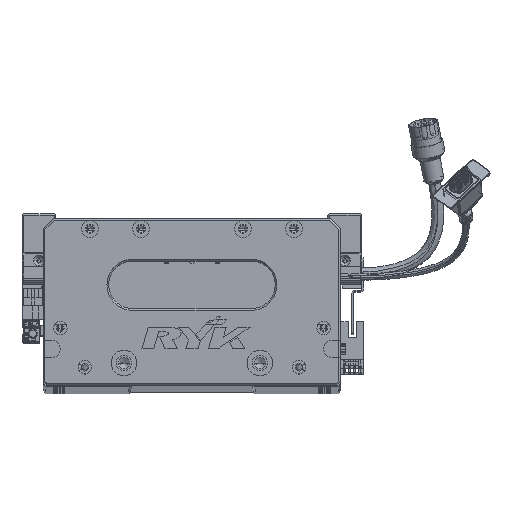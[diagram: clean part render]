
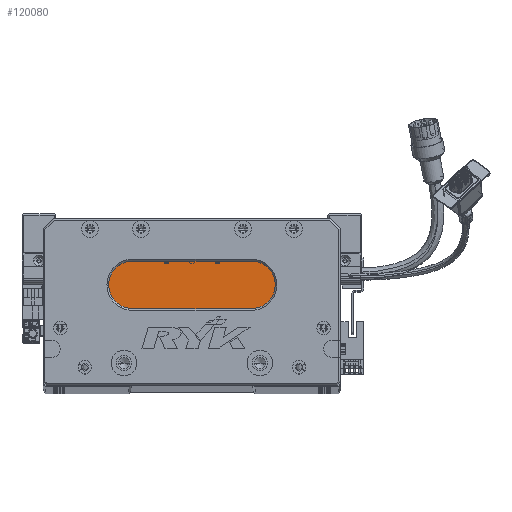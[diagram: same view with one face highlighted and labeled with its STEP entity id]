
A CAD part, top view. The second image highlights one B-rep face of the part: STEP entity #120080.
In plain terms, the highlighted planar face has unit normal (0, 0, 1) as drawn and (0, 0, -1) by its records, which use the part's own axes.
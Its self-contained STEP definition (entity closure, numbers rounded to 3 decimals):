
#118 = DIRECTION ( 'NONE',  ( -1., 0., 0. ) ) ;
#4288 = DIRECTION ( 'NONE',  ( 1., 0., 0. ) ) ;
#5351 = ORIENTED_EDGE ( 'NONE', *, *, #66444, .T. ) ;
#8764 = CARTESIAN_POINT ( 'NONE',  ( 122.5, 73., 18. ) ) ;
#9610 = CIRCLE ( 'NONE', #89347, 14. ) ;
#14701 = EDGE_CURVE ( 'NONE', #100714, #54837, #9610, .T. ) ;
#18153 = DIRECTION ( 'NONE',  ( -1., 0., 0. ) ) ;
#18164 = CIRCLE ( 'NONE', #48050, 14. ) ;
#20559 = VECTOR ( 'NONE', #4288, 1000. ) ;
#23503 = CIRCLE ( 'NONE', #38108, 14. ) ;
#26553 = EDGE_LOOP ( 'NONE', ( #94651, #113593, #57773, #119593, #5351 ) ) ;
#28955 = VERTEX_POINT ( 'NONE', #74074 ) ;
#32872 = FACE_OUTER_BOUND ( 'NONE', #26553, .T. ) ;
#33440 = CARTESIAN_POINT ( 'NONE',  ( 52.5, 45., 18. ) ) ;
#37863 = CARTESIAN_POINT ( 'NONE',  ( 122.5, 59., 18. ) ) ;
#38108 = AXIS2_PLACEMENT_3D ( 'NONE', #58909, #41192, #115889 ) ;
#40216 = DIRECTION ( 'NONE',  ( -1., 0., 0. ) ) ;
#41192 = DIRECTION ( 'NONE',  ( 0., 0., -1. ) ) ;
#45551 = LINE ( 'NONE', #108904, #20559 ) ;
#48050 = AXIS2_PLACEMENT_3D ( 'NONE', #92425, #65818, #18153 ) ;
#51114 = EDGE_CURVE ( 'NONE', #54837, #93905, #117104, .T. ) ;
#54837 = VERTEX_POINT ( 'NONE', #95282 ) ;
#57773 = ORIENTED_EDGE ( 'NONE', *, *, #120077, .T. ) ;
#58909 = CARTESIAN_POINT ( 'NONE',  ( 52.5, 59., 18. ) ) ;
#61101 = CARTESIAN_POINT ( 'NONE',  ( 52.5, 73., 18. ) ) ;
#65818 = DIRECTION ( 'NONE',  ( 0., 0., -1. ) ) ;
#66354 = EDGE_CURVE ( 'NONE', #28955, #90166, #23503, .T. ) ;
#66444 = EDGE_CURVE ( 'NONE', #90166, #100714, #45551, .T. ) ;
#74074 = CARTESIAN_POINT ( 'NONE',  ( 38.5, 59., 18. ) ) ;
#77172 = AXIS2_PLACEMENT_3D ( 'NONE', #37863, #102691, #118 ) ;
#80363 = VECTOR ( 'NONE', #118130, 1000. ) ;
#89347 = AXIS2_PLACEMENT_3D ( 'NONE', #96370, #98871, #40216 ) ;
#90166 = VERTEX_POINT ( 'NONE', #61101 ) ;
#92425 = CARTESIAN_POINT ( 'NONE',  ( 52.5, 59., 18. ) ) ;
#93905 = VERTEX_POINT ( 'NONE', #33440 ) ;
#94651 = ORIENTED_EDGE ( 'NONE', *, *, #14701, .T. ) ;
#95282 = CARTESIAN_POINT ( 'NONE',  ( 122.5, 45., 18. ) ) ;
#96370 = CARTESIAN_POINT ( 'NONE',  ( 122.5, 59., 18. ) ) ;
#98871 = DIRECTION ( 'NONE',  ( 0., 0., -1. ) ) ;
#100714 = VERTEX_POINT ( 'NONE', #8764 ) ;
#102691 = DIRECTION ( 'NONE',  ( 0., 0., -1. ) ) ;
#103101 = PLANE ( 'NONE',  #77172 ) ;
#108904 = CARTESIAN_POINT ( 'NONE',  ( 122.5, 73., 18. ) ) ;
#113593 = ORIENTED_EDGE ( 'NONE', *, *, #51114, .T. ) ;
#115889 = DIRECTION ( 'NONE',  ( -1., 0., 0. ) ) ;
#117104 = LINE ( 'NONE', #118548, #80363 ) ;
#118130 = DIRECTION ( 'NONE',  ( -1., 0., 0. ) ) ;
#118548 = CARTESIAN_POINT ( 'NONE',  ( 122.5, 45., 18. ) ) ;
#119593 = ORIENTED_EDGE ( 'NONE', *, *, #66354, .T. ) ;
#120077 = EDGE_CURVE ( 'NONE', #93905, #28955, #18164, .T. ) ;
#120080 = ADVANCED_FACE ( 'NONE', ( #32872 ), #103101, .T. ) ;
